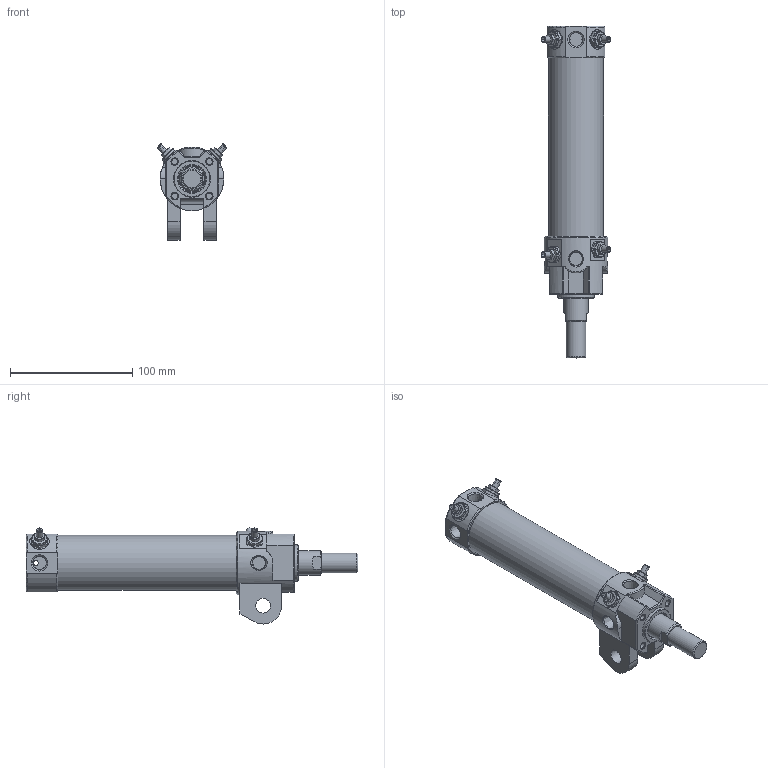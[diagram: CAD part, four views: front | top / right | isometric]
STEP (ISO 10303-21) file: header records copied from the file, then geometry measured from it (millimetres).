
FILE_DESCRIPTION((''),'2;1');
FILE_NAME('I:\3D電子目錄\氣缸\DCK\DCK\DCK-1B-40x100.stp','2008-02-25T16:02:14',('Administrator'),(''),'Autodesk Inventor 11','Autodesk Inventor 11','');
FILE_SCHEMA(('AUTOMOTIVE_DESIGN { 1 0 10303 214 1 1 1 1 }'));
Length unit declared in the file: millimetre
Products named in the file (1): DCK-1B-40
Bounding box: 57.13 x 271.5 x 78.56 mm (x, y, z)
Volume: 199197.2 mm3; surface area: 92389.9 mm2
Topology: 11 solids, 11 shells, 524 faces, 1220 edges, 764 vertices
Faces by surface type: bspline 161, plane 148, cylinder 127, cone 59, torus 27, sphere 2
Full cylindrical faces by diameter (mm): 2 x1, 3 x3, 3.8 x2, 4 x4, 4.6 x2, 5 x6, 5.1 x4, 5.2 x2, 7 x1, 7.25 x1, 8 x2, 8.3 x1, 10 x2, 12 x2, 12.8 x2, 16 x2, 20 x1, 21 x1, 22 x3, 23 x1, 24.7 x1, 26 x1, 28 x1, 29 x1, 30 x1, 33 x1, 40 x1, 42 x2, 45 x1, 52 x1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
Entity records: 25488 total; most frequent: CARTESIAN_POINT 15240, ORIENTED_EDGE 2104, DIRECTION 1851, EDGE_CURVE 1052, AXIS2_PLACEMENT_3D 764, EDGE_LOOP 730, VERTEX_POINT 724, FACE_OUTER_BOUND 522
